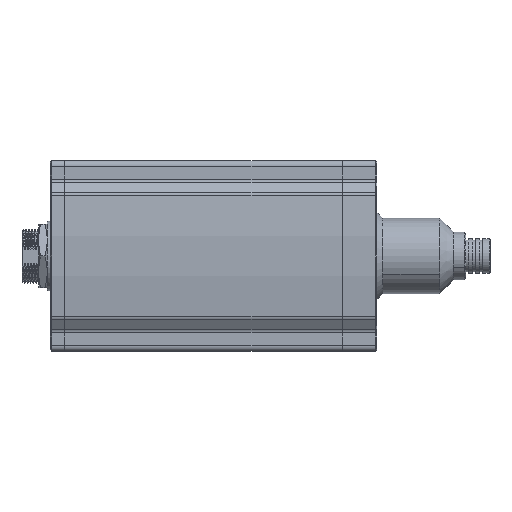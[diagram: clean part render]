
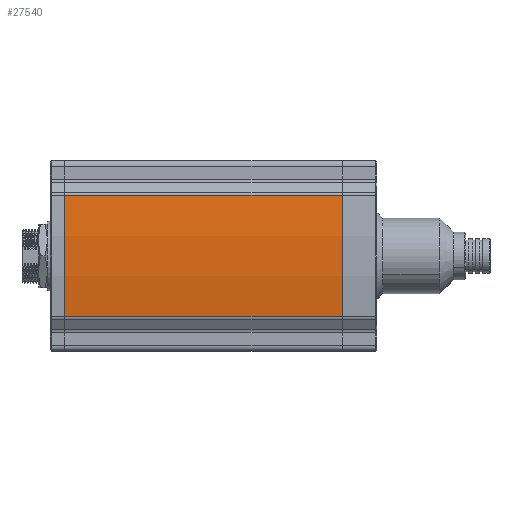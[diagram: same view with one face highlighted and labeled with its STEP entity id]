
A CAD part, front view. The second image highlights one B-rep face of the part: STEP entity #27540.
In plain terms, the highlighted cylindrical face has radius 153.05 mm (diameter 306.1 mm), a partial arc.
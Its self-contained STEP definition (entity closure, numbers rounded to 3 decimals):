
#20645=CARTESIAN_POINT('',(48.,129.05,0.));
#20646=DIRECTION('',(1.,0.,0.));
#20647=DIRECTION('',(0.,-0.991,0.137));
#20648=AXIS2_PLACEMENT_3D('',#20645,#20646,#20647);
#21581=CARTESIAN_POINT('',(-48.,129.05,0.));
#21582=DIRECTION('',(-1.,0.,0.));
#21583=DIRECTION('',(0.,-0.991,-0.137));
#21584=AXIS2_PLACEMENT_3D('',#21581,#21582,#21583);
#21879=DIRECTION('',(-1.,0.,0.));
#21880=VECTOR('',#21879,96.);
#21881=CARTESIAN_POINT('',(48.,-22.55,-21.021));
#21882=LINE('',#21881,#21880);
#21887=DIRECTION('',(-1.,0.,0.));
#21888=VECTOR('',#21887,96.);
#21889=CARTESIAN_POINT('',(48.,-22.55,21.021));
#21890=LINE('',#21889,#21888);
#25623=CARTESIAN_POINT('',(48.,-22.55,-21.021));
#25624=CARTESIAN_POINT('',(-48.,-22.55,-21.021));
#25625=VERTEX_POINT('',#25623);
#25626=VERTEX_POINT('',#25624);
#25627=CARTESIAN_POINT('',(48.,-22.55,21.021));
#25628=VERTEX_POINT('',#25627);
#25629=CARTESIAN_POINT('',(-48.,-22.55,21.021));
#25630=VERTEX_POINT('',#25629);
#27528=CARTESIAN_POINT('',(-48.,129.05,0.));
#27529=DIRECTION('',(1.,0.,0.));
#27530=DIRECTION('',(0.,0.,-1.));
#27531=AXIS2_PLACEMENT_3D('',#27528,#27529,#27530);
#27532=CYLINDRICAL_SURFACE('',#27531,153.05);
#27533=ORIENTED_EDGE('',*,*,#27521,.T.);
#27534=ORIENTED_EDGE('',*,*,#27303,.T.);
#27536=ORIENTED_EDGE('',*,*,#27535,.F.);
#27537=ORIENTED_EDGE('',*,*,#26802,.T.);
#27538=EDGE_LOOP('',(#27533,#27534,#27536,#27537));
#27539=FACE_OUTER_BOUND('',#27538,.F.);
#27540=ADVANCED_FACE('',(#27539),#27532,.T.);
#20649=CIRCLE('',#20648,153.05);
#21585=CIRCLE('',#21584,153.05);
#26802=EDGE_CURVE('',#25628,#25625,#20649,.T.);
#27303=EDGE_CURVE('',#25626,#25630,#21585,.T.);
#27521=EDGE_CURVE('',#25625,#25626,#21882,.T.);
#27535=EDGE_CURVE('',#25628,#25630,#21890,.T.);
